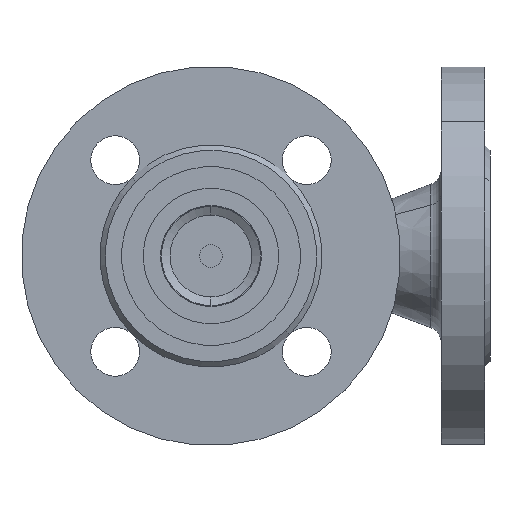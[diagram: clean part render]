
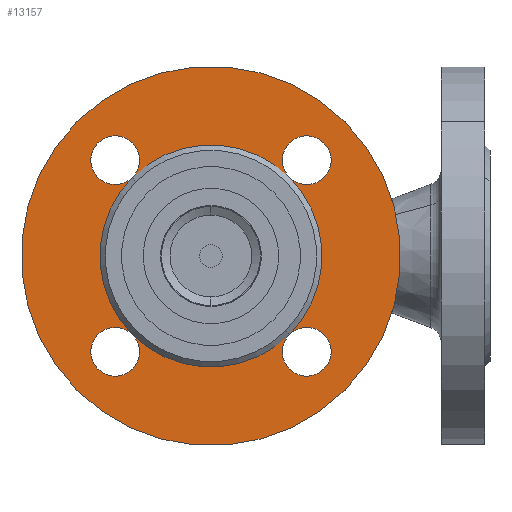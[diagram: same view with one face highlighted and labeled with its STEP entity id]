
A CAD part, front view. The second image highlights one B-rep face of the part: STEP entity #13157.
In plain terms, the highlighted planar face has unit normal (0, -1, 0).
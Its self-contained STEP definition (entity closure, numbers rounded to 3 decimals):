
#249 = EDGE_CURVE ( 'NONE', #12543, #18479, #14535, .T. ) ;
#17000 = ORIENTED_EDGE ( 'NONE', *, *, #249, .T. ) ;
#1276 = ORIENTED_EDGE ( 'NONE', *, *, #25384, .T. ) ;
#1546 = CIRCLE ( 'NONE', #1547, 9. ) ;
#1547 = AXIS2_PLACEMENT_3D ( 'NONE', #1548, #1549, #1550 ) ;
#1548 = CARTESIAN_POINT ( 'NONE',  ( 0., 2., -50. ) ) ;
#1549 = DIRECTION ( 'NONE',  ( 0., 1., 0. ) ) ;
#1550 = DIRECTION ( 'NONE',  ( -1., 0., 0. ) ) ;
#1649 = CARTESIAN_POINT ( 'NONE',  ( 41., 2., 0. ) ) ;
#1896 = EDGE_CURVE ( 'NONE', #18479, #24551, #7891, .T. ) ;
#18273 = EDGE_CURVE ( 'NONE', #12323, #12543, #19637, .T. ) ;
#18479 = VERTEX_POINT ( 'NONE', #19773 ) ;
#2103 = EDGE_CURVE ( 'NONE', #18479, #3740, #7960, .T. ) ;
#2238 = CARTESIAN_POINT ( 'NONE',  ( 59., 2., 0. ) ) ;
#2246 = EDGE_CURVE ( 'NONE', #24551, #24967, #8234, .T. ) ;
#18887 = VERTEX_POINT ( 'NONE', #20058 ) ;
#18957 = ORIENTED_EDGE ( 'NONE', *, *, #18273, .T. ) ;
#2640 = CIRCLE ( 'NONE', #2641, 9. ) ;
#2641 = AXIS2_PLACEMENT_3D ( 'NONE', #2642, #2643, #2644 ) ;
#2642 = CARTESIAN_POINT ( 'NONE',  ( 50., 2., 0. ) ) ;
#2643 = DIRECTION ( 'NONE',  ( 0., 1., 0. ) ) ;
#2644 = DIRECTION ( 'NONE',  ( -1., 0., 0. ) ) ;
#19298 = EDGE_CURVE ( 'NONE', #18887, #18479, #21379, .T. ) ;
#2930 = ORIENTED_EDGE ( 'NONE', *, *, #2246, .T. ) ;
#19637 = CIRCLE ( 'NONE', #19638, 9. ) ;
#19638 = AXIS2_PLACEMENT_3D ( 'NONE', #19639, #19640, #19660 ) ;
#19639 = CARTESIAN_POINT ( 'NONE',  ( -50., 2., 0. ) ) ;
#19640 = DIRECTION ( 'NONE',  ( 0., 1., 0. ) ) ;
#19660 = DIRECTION ( 'NONE',  ( -1., 0., 0. ) ) ;
#19773 = CARTESIAN_POINT ( 'NONE',  ( 0., 2., 41. ) ) ;
#19923 = ORIENTED_EDGE ( 'NONE', *, *, #12771, .T. ) ;
#20058 = CARTESIAN_POINT ( 'NONE',  ( 9., 2., 50. ) ) ;
#3740 = VERTEX_POINT ( 'NONE', #9727 ) ;
#3774 = ORIENTED_EDGE ( 'NONE', *, *, #1896, .T. ) ;
#20817 = ORIENTED_EDGE ( 'NONE', *, *, #12561, .T. ) ;
#21379 = CIRCLE ( 'NONE', #21380, 9. ) ;
#21380 = AXIS2_PLACEMENT_3D ( 'NONE', #21381, #21382, #21383 ) ;
#21381 = CARTESIAN_POINT ( 'NONE',  ( 0., 2., 50. ) ) ;
#21382 = DIRECTION ( 'NONE',  ( 0., 1., 0. ) ) ;
#21383 = DIRECTION ( 'NONE',  ( -1., 0., 0. ) ) ;
#5276 = VERTEX_POINT ( 'NONE', #14516 ) ;
#5401 = EDGE_CURVE ( 'NONE', #5276, #5492, #14681, .T. ) ;
#5492 = VERTEX_POINT ( 'NONE', #14856 ) ;
#5716 = EDGE_CURVE ( 'NONE', #5492, #5276, #15062, .T. ) ;
#23131 = CARTESIAN_POINT ( 'NONE',  ( -9., 2., -50. ) ) ;
#23660 = CARTESIAN_POINT ( 'NONE',  ( 9., 2., -50. ) ) ;
#7891 = CIRCLE ( 'NONE', #7892, 41. ) ;
#7892 = AXIS2_PLACEMENT_3D ( 'NONE', #7893, #7894, #7895 ) ;
#7893 = CARTESIAN_POINT ( 'NONE',  ( 0., 2., 0. ) ) ;
#7894 = DIRECTION ( 'NONE',  ( 0., 1., 0. ) ) ;
#7895 = DIRECTION ( 'NONE',  ( -1., 0., 0. ) ) ;
#24307 = CIRCLE ( 'NONE', #24308, 9. ) ;
#24308 = AXIS2_PLACEMENT_3D ( 'NONE', #24309, #24310, #24329 ) ;
#24309 = CARTESIAN_POINT ( 'NONE',  ( 0., 2., -50. ) ) ;
#24310 = DIRECTION ( 'NONE',  ( 0., 1., 0. ) ) ;
#7945 = VERTEX_POINT ( 'NONE', #23131 ) ;
#24329 = DIRECTION ( 'NONE',  ( -1., 0., 0. ) ) ;
#7960 = CIRCLE ( 'NONE', #7961, 9. ) ;
#7961 = AXIS2_PLACEMENT_3D ( 'NONE', #7962, #7963, #7964 ) ;
#7962 = CARTESIAN_POINT ( 'NONE',  ( 0., 2., 50. ) ) ;
#7963 = DIRECTION ( 'NONE',  ( 0., 1., 0. ) ) ;
#7964 = DIRECTION ( 'NONE',  ( -1., 0., 0. ) ) ;
#7986 = CARTESIAN_POINT ( 'NONE',  ( -59., 2., 0. ) ) ;
#8165 = VERTEX_POINT ( 'NONE', #23660 ) ;
#24551 = VERTEX_POINT ( 'NONE', #1649 ) ;
#8180 = CARTESIAN_POINT ( 'NONE',  ( 0., 2., -41. ) ) ;
#8234 = CIRCLE ( 'NONE', #8235, 9. ) ;
#8235 = AXIS2_PLACEMENT_3D ( 'NONE', #8236, #8237, #8238 ) ;
#8236 = CARTESIAN_POINT ( 'NONE',  ( 50., 2., 0. ) ) ;
#8237 = DIRECTION ( 'NONE',  ( 0., 1., 0. ) ) ;
#8238 = DIRECTION ( 'NONE',  ( -1., 0., 0. ) ) ;
#8388 = EDGE_CURVE ( 'NONE', #8165, #7945, #24307, .T. ) ;
#8421 = CARTESIAN_POINT ( 'NONE',  ( -41., 2., 0. ) ) ;
#8455 = CIRCLE ( 'NONE', #8456, 41. ) ;
#8456 = AXIS2_PLACEMENT_3D ( 'NONE', #8457, #8458, #8459 ) ;
#8457 = CARTESIAN_POINT ( 'NONE',  ( 0., 2., 0. ) ) ;
#8458 = DIRECTION ( 'NONE',  ( 0., 1., 0. ) ) ;
#8459 = DIRECTION ( 'NONE',  ( -1., 0., 0. ) ) ;
#24967 = VERTEX_POINT ( 'NONE', #2238 ) ;
#8594 = CIRCLE ( 'NONE', #8595, 9. ) ;
#8595 = AXIS2_PLACEMENT_3D ( 'NONE', #8596, #8597, #8598 ) ;
#8596 = CARTESIAN_POINT ( 'NONE',  ( -50., 2., 0. ) ) ;
#8597 = DIRECTION ( 'NONE',  ( 0., 1., 0. ) ) ;
#8598 = DIRECTION ( 'NONE',  ( -1., 0., 0. ) ) ;
#25272 = CIRCLE ( 'NONE', #25273, 9. ) ;
#25273 = AXIS2_PLACEMENT_3D ( 'NONE', #25274, #25275, #25276 ) ;
#25274 = CARTESIAN_POINT ( 'NONE',  ( 0., 2., -50. ) ) ;
#25275 = DIRECTION ( 'NONE',  ( 0., 1., 0. ) ) ;
#25276 = DIRECTION ( 'NONE',  ( -1., 0., 0. ) ) ;
#8905 = EDGE_CURVE ( 'NONE', #7945, #12344, #25272, .T. ) ;
#8953 = FACE_OUTER_BOUND ( 'NONE', #12992, .T. ) ;
#8954 = FACE_BOUND ( 'NONE', #11708, .T. ) ;
#8955 = PLANE ( 'NONE',  #8956 ) ;
#8956 = AXIS2_PLACEMENT_3D ( 'NONE', #8957, #8958, #8959 ) ;
#8957 = CARTESIAN_POINT ( 'NONE',  ( 41., 2., 0. ) ) ;
#8958 = DIRECTION ( 'NONE',  ( 0., 1., 0. ) ) ;
#8959 = DIRECTION ( 'NONE',  ( -1., 0., 0. ) ) ;
#25384 = EDGE_CURVE ( 'NONE', #24967, #24551, #2640, .T. ) ;
#9282 = ORIENTED_EDGE ( 'NONE', *, *, #8905, .T. ) ;
#9727 = CARTESIAN_POINT ( 'NONE',  ( -9., 2., 50. ) ) ;
#9794 = ORIENTED_EDGE ( 'NONE', *, *, #8388, .T. ) ;
#10311 = EDGE_CURVE ( 'NONE', #12344, #8165, #1546, .T. ) ;
#10673 = ORIENTED_EDGE ( 'NONE', *, *, #10311, .T. ) ;
#11191 = ORIENTED_EDGE ( 'NONE', *, *, #11452, .T. ) ;
#11452 = EDGE_CURVE ( 'NONE', #24551, #12344, #16327, .T. ) ;
#11708 = EDGE_LOOP ( 'NONE', ( #11191, #10673, #9794, #9282, #20817, #19923, #18957, #17000, #16039, #15078, #13816, #3774, #2930, #1276 ) ) ;
#11953 = ORIENTED_EDGE ( 'NONE', *, *, #5401, .F. ) ;
#12323 = VERTEX_POINT ( 'NONE', #7986 ) ;
#12344 = VERTEX_POINT ( 'NONE', #8180 ) ;
#12474 = ORIENTED_EDGE ( 'NONE', *, *, #5716, .F. ) ;
#12543 = VERTEX_POINT ( 'NONE', #8421 ) ;
#12561 = EDGE_CURVE ( 'NONE', #12344, #12543, #8455, .T. ) ;
#12767 = CIRCLE ( 'NONE', #12768, 9. ) ;
#12768 = AXIS2_PLACEMENT_3D ( 'NONE', #12775, #12776, #12777 ) ;
#12771 = EDGE_CURVE ( 'NONE', #12543, #12323, #8594, .T. ) ;
#12775 = CARTESIAN_POINT ( 'NONE',  ( 0., 2., 50. ) ) ;
#12776 = DIRECTION ( 'NONE',  ( 0., 1., 0. ) ) ;
#12777 = DIRECTION ( 'NONE',  ( -1., 0., 0. ) ) ;
#12992 = EDGE_LOOP ( 'NONE', ( #12474, #11953 ) ) ;
#13157 = ADVANCED_FACE ( 'NONE', ( #8953, #8954 ), #8955, .F. ) ;
#13816 = ORIENTED_EDGE ( 'NONE', *, *, #19298, .T. ) ;
#14385 = EDGE_CURVE ( 'NONE', #3740, #18887, #12767, .T. ) ;
#14516 = CARTESIAN_POINT ( 'NONE',  ( 70., 2., 0. ) ) ;
#14535 = CIRCLE ( 'NONE', #14536, 41. ) ;
#14536 = AXIS2_PLACEMENT_3D ( 'NONE', #14537, #14538, #14539 ) ;
#14537 = CARTESIAN_POINT ( 'NONE',  ( 0., 2., 0. ) ) ;
#14538 = DIRECTION ( 'NONE',  ( 0., 1., 0. ) ) ;
#14539 = DIRECTION ( 'NONE',  ( -1., 0., 0. ) ) ;
#14681 = CIRCLE ( 'NONE', #14682, 70. ) ;
#14682 = AXIS2_PLACEMENT_3D ( 'NONE', #14683, #14684, #14685 ) ;
#14683 = CARTESIAN_POINT ( 'NONE',  ( 0., 2., 0. ) ) ;
#14684 = DIRECTION ( 'NONE',  ( 0., 1., 0. ) ) ;
#14685 = DIRECTION ( 'NONE',  ( -1., 0., 0. ) ) ;
#14856 = CARTESIAN_POINT ( 'NONE',  ( -70., 2., 0. ) ) ;
#15062 = CIRCLE ( 'NONE', #15063, 70. ) ;
#15063 = AXIS2_PLACEMENT_3D ( 'NONE', #15064, #15065, #15066 ) ;
#15064 = CARTESIAN_POINT ( 'NONE',  ( 0., 2., 0. ) ) ;
#15065 = DIRECTION ( 'NONE',  ( 0., 1., 0. ) ) ;
#15066 = DIRECTION ( 'NONE',  ( -1., 0., 0. ) ) ;
#15078 = ORIENTED_EDGE ( 'NONE', *, *, #14385, .T. ) ;
#16039 = ORIENTED_EDGE ( 'NONE', *, *, #2103, .T. ) ;
#16327 = CIRCLE ( 'NONE', #16328, 41. ) ;
#16328 = AXIS2_PLACEMENT_3D ( 'NONE', #16346, #16347, #16348 ) ;
#16346 = CARTESIAN_POINT ( 'NONE',  ( 0., 2., 0. ) ) ;
#16347 = DIRECTION ( 'NONE',  ( 0., 1., 0. ) ) ;
#16348 = DIRECTION ( 'NONE',  ( -1., 0., 0. ) ) ;
